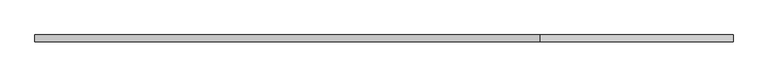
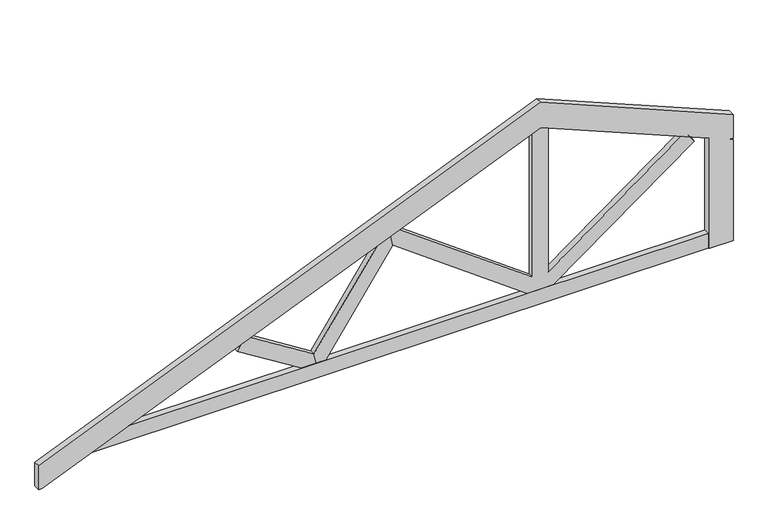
"""IFC4 building model written with IfcOpenShell, lengths in millimetres: beam geometry, Truss-Clipped : L-20' S-10' w 5/12 Pitch."""

from ifc_helpers import new_model, si_unit, origin, place, context, project, spatial, faceted_brep, source, transform, mapped, element, save


def beam_194eedb6(model_context):
    return source(origin(), model_context, "Body", "Brep", [
        faceted_brep([(456.778395, -157.343471, 0.0), (456.778395, -157.343471, 608.5416667), (456.778395, -195.443471, 608.5416667), (456.778395, -195.443471, 0.0), (-2987.461605, -158.930971, 88.9), (-2987.461605, -193.855971, 88.9), (317.078395, -193.855971, 88.9), (317.078395, -158.930971, 88.9), (-566.3232712, -160.518471, 88.9), (-566.3232712, -192.268471, 88.9), (-717.2199389, -192.268471, 88.9), (-717.2199389, -160.518471, 88.9), (-1867.3988811, -192.268471, 88.9), (-1921.296605, -192.268471, 88.9), (-2005.174676, -192.268471, 88.9), (-2005.174676, -160.518471, 88.9), (-1921.296605, -160.518471, 88.9), (-1867.3988811, -160.518471, 88.9), (-3200.821605, -158.930971, 0.0), (317.078395, -158.930971, 0.0), (317.078395, -195.443471, 0.0), (317.078395, -193.855971, 0.0), (-3200.821605, -193.855971, 0.0), (317.078395, -157.343471, 0.0), (237.4325518, -192.268471, 674.9304036), (211.2450616, -192.268471, 710.8472222), (163.2337234, -192.268471, 730.8519465), (-597.321605, -192.268471, 176.3196702), (-597.321605, -192.268471, 1047.75), (-641.771605, -192.268471, 1066.2708333), (-686.221605, -192.268471, 1047.75), (-686.221605, -192.268471, 176.3196702), (-1446.7769335, -192.268471, 730.8519465), (-1494.7882717, -192.268471, 710.8472222), (-1484.0059004, -192.268471, 647.9751241), (237.4325518, -160.518471, 674.9304036), (-1484.0059004, -160.518471, 647.9751241), (-1494.7882717, -160.518471, 710.8472222), (-1446.7769335, -160.518471, 730.8519465), (-686.221605, -160.518471, 176.3196702), (-686.221605, -160.518471, 1047.75), (-641.771605, -160.518471, 1066.2708333), (-597.321605, -160.518471, 1047.75), (-597.321605, -160.518471, 176.3196702), (163.2337234, -160.518471, 730.8519465), (211.2450616, -160.518471, 710.8472222), (-1933.8643258, -192.268471, 149.1686481), (-1570.2472253, -192.268471, 679.4059916), (-1933.8643258, -160.518471, 149.1686481), (-1570.2472253, -160.518471, 679.4059916), (-2371.3605886, -160.518471, 317.728335), (-2371.3605886, -192.268471, 317.728335), (-2347.8049384, -192.268471, 355.4236111), (-2347.8049384, -160.518471, 355.4236111), (-2297.4814263, -192.268471, 376.3917411), (-2297.4814263, -160.518471, 376.3917411), (-3485.301605, -195.443471, -118.5333333), (-641.771605, -195.443471, 1066.2708333), (317.078395, -195.443471, 666.75), (436.458395, -195.443471, 617.0083333), (456.778395, -195.443471, 617.0083333), (456.778395, -195.443471, 759.8833333), (-641.771605, -195.443471, 1217.6125), (-3505.621605, -195.443471, 24.3416667), (-3505.621605, -195.443471, -118.5333333), (-3485.301605, -157.343471, -118.5333333), (-3505.621605, -157.343471, -118.5333333), (-3505.621605, -157.343471, 24.3416667), (-641.771605, -157.343471, 1217.6125), (456.778395, -157.343471, 759.8833333), (456.778395, -157.343471, 617.0083333), (436.458395, -157.343471, 617.0083333), (317.078395, -157.343471, 666.75), (-641.771605, -157.343471, 1066.2708333)], [[[0, 1, 2, 3]], [[4, 5, 6, 7], [8, 9, 10, 11], [12, 13, 14, 15, 16, 17]], [[18, 4, 7, 19]], [[0, 3, 20, 21, 22, 18, 19, 23]], [[5, 22, 21, 6]], [[9, 24, 25, 26, 27, 28, 29, 30, 31, 32, 33, 34, 10]], [[35, 24, 9, 8]], [[35, 8, 11, 36, 37, 38, 39, 40, 41, 42, 43, 44, 45]], [[43, 27, 26, 44]], [[34, 36, 11, 10]], [[31, 39, 38, 32]], [[46, 13, 12, 34, 33, 47]], [[36, 34, 12, 17]], [[36, 17, 16, 48, 49, 37]], [[48, 46, 47, 49]], [[50, 51, 52, 53]], [[13, 46, 54, 52, 51, 14]], [[51, 50, 15, 14]], [[48, 16, 15, 50, 53, 55]], [[46, 48, 55, 54]], [[39, 31, 30, 40]], [[27, 43, 42, 28]], [[56, 57, 58, 20, 3, 2, 59, 60, 61, 62, 63, 64]], [[65, 66, 67, 68, 69, 70, 71, 1, 0, 23, 72, 73]], [[57, 56, 65, 73, 41, 40, 30, 29], [5, 4, 18, 22], [33, 32, 38, 37, 49, 47], [53, 52, 54, 55]], [[41, 73, 72, 58, 57, 29, 28, 42], [25, 45, 44, 26]], [[60, 59, 71, 70]], [[61, 60, 70, 69]], [[62, 61, 69, 68]], [[63, 62, 68, 67]], [[64, 63, 67, 66]], [[56, 64, 66, 65]], [[2, 1, 71, 59]], [[20, 58, 72, 23, 19, 7, 6, 21]], [[24, 35, 45, 25]]]),
    ])


if __name__ == "__main__":
    model = new_model("IFC4")
    model_context = context("Model", 3, world=origin())
    ifc_project = project(units=[si_unit("LENGTHUNIT", "METRE", prefix="MILLI")], contexts=[model_context])
    site = spatial("IfcSite", under=ifc_project)
    building = spatial("IfcBuilding", under=site)
    placement = place(None, origin())
    beam_shape = beam_194eedb6(model_context)
    element("IfcBeam", 1, ObjectType="Truss-Clipped : L-20' S-10' w 5/12 Pitch", at=placement, inside=building, context=model_context, shape_type="MappedRepresentation", body=[
        mapped(beam_shape, transform((0.0, 0.0, 0.0), x_axis=(1.0, 0.0, 0.0), y_axis=(0.0, 1.0, 0.0), z_axis=(0.0, 0.0, 1.0))),
    ])
    save(model, "model.ifc")
